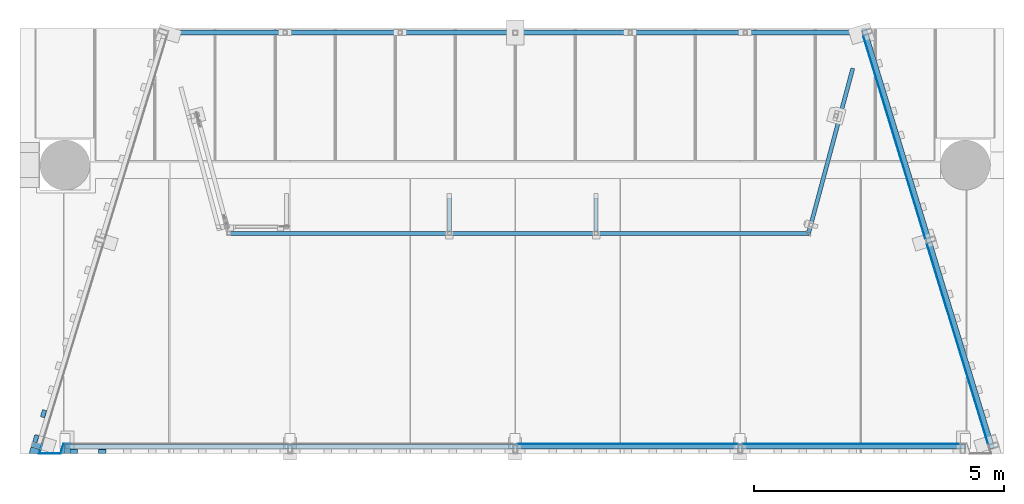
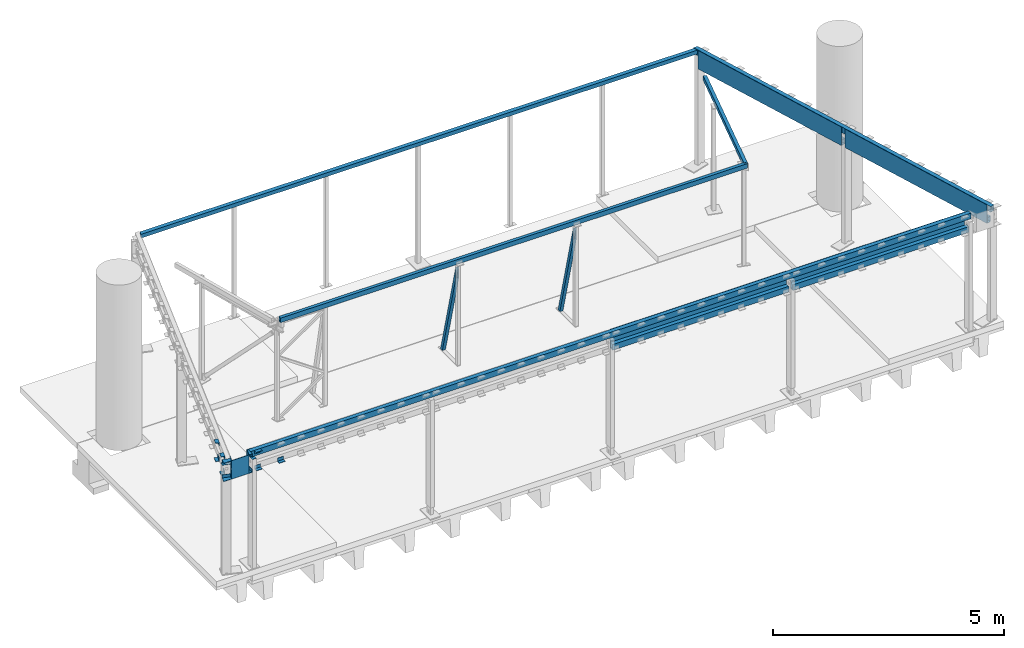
# One storey, part 11 of 19: 27 beams, 2 members.
"""IFC2X3 building model written with IfcOpenShell, lengths in millimetres."""

from ifc_helpers import new_model, entity, si_unit, converted_unit, derived_unit, direction, frame, origin_with_axes, place, context, subcontext, project, spatial, faceted_brep, material, type_object, element, save


model = new_model("IFC2X3")

# Units and contexts
model_context = context("Model", 3, precision=0.01, world=frame((0.0, 4.29681676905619e-09, 0.0)), true_north=direction((4.01073788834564e-13, 1.0)))
plan_context = context("Plan", 3, precision=0.01, world=frame((0.0, 4.29681676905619e-09, 0.0)), true_north=direction((4.01073788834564e-13, 1.0)))
body_context = subcontext(model_context, "Body", "Model", "MODEL_VIEW")
ifc_project = project(units=[converted_unit("PLANEANGLEUNIT", "DEGREE", entity("IfcPositiveLengthMeasure", 0.0174532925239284), si_unit("PLANEANGLEUNIT", "RADIAN"), dimensions=[0, 0, 0, 0, 0, 0, 0]), si_unit("AREAUNIT", "SQUARE_METRE"), si_unit("LENGTHUNIT", "METRE", prefix="MILLI"), si_unit("MASSUNIT", "GRAM", prefix="KILO"), si_unit("POWERUNIT", "WATT"), si_unit("PRESSUREUNIT", "PASCAL", prefix="KILO"), si_unit("FORCEUNIT", "NEWTON", prefix="KILO"), si_unit("ELECTRICVOLTAGEUNIT", "VOLT"), si_unit("ELECTRICCURRENTUNIT", "AMPERE"), si_unit("THERMODYNAMICTEMPERATUREUNIT", "DEGREE_CELSIUS"), si_unit("TIMEUNIT", "SECOND"), si_unit("VOLUMEUNIT", "CUBIC_METRE"), derived_unit("LINEARVELOCITYUNIT", [(si_unit("LENGTHUNIT", "METRE"), 1), (si_unit("TIMEUNIT", "SECOND"), -1)]), derived_unit("VOLUMETRICFLOWRATEUNIT", [(si_unit("VOLUMEUNIT", "CUBIC_METRE"), 1), (si_unit("TIMEUNIT", "SECOND"), -1)]), derived_unit("THERMALTRANSMITTANCEUNIT", [(si_unit("POWERUNIT", "WATT"), 1), (si_unit("THERMODYNAMICTEMPERATUREUNIT", "KELVIN"), -1), (si_unit("AREAUNIT", "SQUARE_METRE"), -1)]), derived_unit("SOUNDPRESSUREUNIT", [(si_unit("PRESSUREUNIT", "PASCAL"), 1)])], contexts=[model_context, plan_context])

# Site, building, storey
site_placement = place(None, frame((0.0, -4.29681676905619e-09, 0.0), z_axis=(0.0, 0.0, 1.0), x_axis=(1.0, 0.0, 0.0)))
site = spatial("IfcSite", under=ifc_project, at=site_placement, Name="Gardermoen", CompositionType="ELEMENT")
building_placement = place(site_placement, frame((0.0, 4.29681676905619e-09, 0.0), z_axis=(0.0, 0.0, 1.0), x_axis=(1.0, 0.0, 0.0)))
building = spatial("IfcBuilding", under=site, at=building_placement, Name="TI", CompositionType="ELEMENT")
storey_placement = place(building_placement, origin_with_axes())
storey = spatial("IfcBuildingStorey", under=building, at=storey_placement, Name="F", CompositionType="ELEMENT", Elevation=0.0)

# Beams
ifc_material = material(Name="STEEL/S355")
beam_type_1 = type_object("IfcBeamType", Name="PL8*100", PredefinedType="NOTDEFINED")
beam_1_placement = place(storey_placement, frame((583000.000043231, 569930.0, 213741.000686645), z_axis=(1.0, 0.0, 0.0), x_axis=(0.0, -1.0, 0.0)))
element("IfcBeam", 1, at=beam_1_placement, inside=storey, type_object=beam_type_1, material=ifc_material, Name="STÅLBJELKE", ObjectType="PL8*100", context=body_context, shape_type="Brep", body=[
    faceted_brep([(-5.82076609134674e-11, -3.99999999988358, 0.0), (3.95812094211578e-09, -3.99999999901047, 100.000000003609), (4.30736690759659e-09, 4.00000000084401, 100.000000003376), (-5.82076609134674e-11, 4.00000000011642, -5.82076609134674e-11), (199.999999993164, -4.0, 99.9999999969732), (199.999999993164, 4.0, 99.9999999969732), (200.0, -4.0, -1.97906047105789e-09), (200.0, 4.00000000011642, -1.62981450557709e-09)], [[[0, 1, 2, 3]], [[1, 4, 5, 2]], [[4, 6, 7, 5]], [[6, 0, 3, 7]], [[5, 7, 3, 2]], [[6, 4, 1, 0]]]),
])
beam_2_placement = place(storey_placement, frame((582545.424792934, 569908.377048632, 213741.000686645), z_axis=(-0.956304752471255, 0.292371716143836, 0.0), x_axis=(-0.292371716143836, -0.956304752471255, 0.0)))
element("IfcBeam", 2, at=beam_2_placement, inside=storey, type_object=beam_type_1, material=ifc_material, Name="STÅLBJELKE", ObjectType="PL8*100", context=body_context, shape_type="Brep", body=[
    faceted_brep([(-5.82076609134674e-11, -3.99999999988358, 0.0), (3.84170562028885e-09, -4.0, 199.999999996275), (3.84170562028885e-09, 4.0, 199.999999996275), (-5.82076609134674e-11, 4.00000000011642, -5.82076609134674e-11), (100.000000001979, -4.0, 199.999999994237), (100.000000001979, 4.0, 199.999999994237), (100.0, -4.0, 0.0), (100.0, 4.0, 0.0)], [[[0, 1, 2, 3]], [[1, 4, 5, 2]], [[4, 6, 7, 5]], [[6, 0, 3, 7]], [[5, 7, 3, 2]], [[6, 4, 1, 0]]]),
])
beam_type_2 = type_object("IfcBeamType", Name="RHS150*100*8", PredefinedType="NOTDEFINED")
for number, where, z_axis, x_axis in (
    (3, (596449.99998736, 569869.999958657, 213479.999618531), (0.0, 0.0, 1.0), (-0.999999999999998, 5.80000057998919e-08, 0.0)),
    (4, (600950.000018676, 569870.0, 213480.000686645), (0.0, 0.0, 1.0), (-0.999999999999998, 5.80000057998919e-08, 0.0)),
):
    element("IfcBeam", number, at=place(storey_placement, frame(where, z_axis=z_axis, x_axis=x_axis)), inside=storey, type_object=beam_type_2, material=ifc_material, Name="STÅLBJELKE", ObjectType="RHS150*100*8", context=body_context, shape_type="Brep", body=[
        faceted_brep([(-1.86264514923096e-09, 42.0000000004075, -67.0), (1.62981450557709e-09, -42.000000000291, -67.0), (4399.99994412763, -41.9999998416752, -67.0000000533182), (4399.9999441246, 42.0000001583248, -67.0000000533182), (1.62981450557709e-09, -42.000000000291, 67.0), (4399.9999441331, -41.9999998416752, 66.9999999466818), (-1.86264514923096e-09, 42.0000000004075, 67.0), (4399.99994413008, 42.0000001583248, 66.9999999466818), (0.0, 50.0, -75.0), (0.0, 50.0, 75.0), (4399.99994413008, 50.0000001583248, 74.9999999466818), (4399.99994412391, 50.0000001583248, -75.0000000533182), (0.0, -50.0, 75.0), (4399.99994413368, -49.9999998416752, 74.9999999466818), (0.0, -50.0, -75.0), (4399.99994412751, -49.9999998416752, -75.0000000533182)], [[[0, 1, 2, 3]], [[1, 4, 5, 2]], [[4, 6, 7, 5]], [[6, 0, 3, 7]], [[8, 9, 10, 11]], [[9, 12, 13, 10]], [[12, 14, 15, 13]], [[14, 8, 11, 15]], [[13, 15, 11, 10], [5, 7, 3, 2]], [[14, 12, 9, 8], [6, 4, 1, 0]]]),
    ])
beam_3_placement = place(storey_placement, frame((601000.000004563, 569870.0, 213820.000686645), z_axis=(0.0, 0.0, 1.0), x_axis=(-0.999999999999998, 5.80000057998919e-08, 0.0)))
element("IfcBeam", 5, at=beam_3_placement, inside=storey, type_object=beam_type_2, material=ifc_material, Name="STÅLBJELKE", ObjectType="RHS150*100*8", context=body_context, shape_type="Brep", body=[
    faceted_brep([(-1.86264514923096e-09, 42.0000000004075, -67.0), (1.62981450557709e-09, -42.000000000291, -67.0), (18000.0000126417, -42.0000003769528, -66.9999998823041), (18000.0000126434, 41.9999996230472, -66.9999998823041), (1.62981450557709e-09, -42.000000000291, 67.0), (18000.0000126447, -42.0000003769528, 67.0000001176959), (-1.86264514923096e-09, 42.0000000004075, 67.0), (18000.0000126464, 41.9999996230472, 67.0000001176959), (0.0, 50.0, -75.0), (0.0, 50.0, 75.0), (18000.0000126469, 49.9999996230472, 75.0000001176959), (18000.0000126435, 49.9999996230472, -74.9999998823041), (0.0, -50.0, 75.0), (18000.0000126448, -50.0000003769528, 75.0000001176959), (0.0, -50.0, -75.0), (18000.0000126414, -50.0000003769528, -74.9999998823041)], [[[0, 1, 2, 3]], [[1, 4, 5, 2]], [[4, 6, 7, 5]], [[6, 0, 3, 7]], [[8, 9, 10, 11]], [[9, 12, 13, 10]], [[12, 14, 15, 13]], [[14, 8, 11, 15]], [[13, 15, 11, 10], [5, 7, 3, 2]], [[14, 12, 9, 8], [6, 4, 1, 0]]]),
])
beam_4_placement = place(storey_placement, frame((600282.527435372, 573947.177100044, 213480.000686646), z_axis=(2.92383394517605e-10, -9.56342958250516e-10, 1.0), x_axis=(0.292371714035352, -0.956304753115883, -1.00003995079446e-09)))
element("IfcBeam", 6, at=beam_4_placement, inside=storey, type_object=beam_type_2, material=ifc_material, Name="STÅLBJELKE", ObjectType="RHS150*100*8", context=body_context, shape_type="Brep", body=[
    faceted_brep([(-1.86264514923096e-09, 42.0000000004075, -67.0), (1.62981450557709e-09, -42.000000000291, -67.0), (4204.99962718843, -42.0000000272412, -67.0), (4204.99962718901, 41.9999999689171, -67.0), (1.62981450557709e-09, -42.000000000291, 67.0), (4204.99962718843, -42.0000000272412, 67.0), (-1.86264514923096e-09, 42.0000000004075, 67.0), (4204.99962718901, 41.9999999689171, 67.0), (0.0, 50.0, -75.0), (0.0, 50.0, 75.0), (4204.99962718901, 49.9999999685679, 75.0), (4204.99962718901, 49.9999999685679, -75.0), (0.0, -50.0, 75.0), (4204.99962718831, -50.0000000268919, 75.0), (0.0, -50.0, -75.0), (4204.99962718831, -50.0000000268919, -75.0)], [[[0, 1, 2, 3]], [[1, 4, 5, 2]], [[4, 6, 7, 5]], [[6, 0, 3, 7]], [[8, 9, 10, 11]], [[9, 12, 13, 10]], [[12, 14, 15, 13]], [[14, 8, 11, 15]], [[13, 15, 11, 10], [5, 7, 3, 2]], [[14, 12, 9, 8], [6, 4, 1, 0]]]),
])
beam_5_placement = place(storey_placement, frame((599012.172367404, 578102.321296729, 213480.000686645), z_axis=(2.92383394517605e-10, -9.56342958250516e-10, 1.0), x_axis=(0.292371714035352, -0.956304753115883, -1.00003995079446e-09)))
element("IfcBeam", 7, at=beam_5_placement, inside=storey, type_object=beam_type_2, material=ifc_material, Name="STÅLBJELKE", ObjectType="RHS150*100*8", context=body_context, shape_type="Brep", body=[
    faceted_brep([(-1.86264514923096e-09, 42.0000000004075, -67.0), (1.62981450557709e-09, -42.000000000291, -67.0), (4244.99999992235, -41.999999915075, -67.0), (4244.99999992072, 42.0000000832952, -67.0), (1.62981450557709e-09, -42.000000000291, 67.0), (4244.99999992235, -41.999999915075, 67.0), (-1.86264514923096e-09, 42.0000000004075, 67.0), (4244.99999992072, 42.0000000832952, 67.0), (0.0, 50.0, -75.0), (0.0, 50.0, 75.0), (4244.9999999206, 50.0000000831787, 75.0), (4244.9999999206, 50.0000000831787, -75.0), (0.0, -50.0, 75.0), (4244.99999992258, -49.9999999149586, 75.0), (0.0, -50.0, -75.0), (4244.99999992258, -49.9999999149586, -75.0)], [[[0, 1, 2, 3]], [[1, 4, 5, 2]], [[4, 6, 7, 5]], [[6, 0, 3, 7]], [[8, 9, 10, 11]], [[9, 12, 13, 10]], [[12, 14, 15, 13]], [[14, 8, 11, 15]], [[13, 15, 11, 10], [5, 7, 3, 2]], [[14, 12, 9, 8], [6, 4, 1, 0]]]),
])
beam_6_placement = place(storey_placement, frame((596263.935293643, 587091.414294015, 213820.000686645), z_axis=(2.92383394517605e-10, -9.56342958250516e-10, 1.0), x_axis=(0.292371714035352, -0.956304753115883, -1.00003995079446e-09)))
element("IfcBeam", 8, at=beam_6_placement, inside=storey, type_object=beam_type_2, Name="STÅLBJELKE", ObjectType="RHS150*100*8", context=body_context, shape_type="Brep", body=[
    faceted_brep([(9256.08144221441, -41.9999997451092, -67.0), (9281.76282035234, 42.0000002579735, -67.0), (18049.819155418, 42.0000005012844, -67.0), (18049.8191554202, -41.9999995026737, -67.0), (9256.08144208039, -41.9999997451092, 67.0), (18049.8191554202, -41.9999995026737, 67.0), (9281.76282021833, 42.0000002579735, 67.0), (18049.819155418, 42.0000005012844, 67.0), (9284.2086657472, 50.0000002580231, 75.0), (9284.20866589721, 50.0000002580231, -75.0), (18049.8191554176, 50.0000005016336, -75.0), (18049.8191554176, 50.0000005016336, 75.0), (9253.63559653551, -49.9999997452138, 75.0), (18049.8191554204, -49.999999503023, 75.0), (9253.63559668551, -49.9999997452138, -75.0), (18049.8191554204, -49.999999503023, -75.0)], [[[0, 1, 2, 3]], [[4, 0, 3, 5]], [[6, 4, 5, 7]], [[1, 6, 7, 2]], [[8, 9, 10, 11]], [[12, 8, 11, 13]], [[14, 12, 13, 15]], [[9, 14, 15, 10]], [[11, 10, 15, 13], [3, 2, 7, 5]], [[12, 14, 9, 8], [4, 6, 1, 0]]], orient=[[False], [False], [False], [False], [False], [False], [False], [False], [False, False], [False, False]]),
])
beam_type_3 = type_object("IfcBeamType", Name="PL10*490", PredefinedType="NOTDEFINED")
beam_7_placement = place(storey_placement, frame((583099.99925983, 569924.999998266, 213650.000687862), z_axis=(2.93199766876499e-06, -1.78000527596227e-07, 0.999999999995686), x_axis=(-0.999999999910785, 1.3031999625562e-05, 2.93199998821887e-06)))
element("IfcBeam", 9, at=beam_7_placement, inside=storey, type_object=beam_type_3, material=ifc_material, Name="STÅLBJELKE", ObjectType="PL10*490", context=body_context, shape_type="Brep", body=[
    faceted_brep([(99.9995517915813, -4.99999995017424, 94.9996998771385), (99.9995517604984, 5.00000005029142, 94.9996998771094), (99.997878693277, 5.00000003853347, -245.000000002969), (99.9978786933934, -4.9999999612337, -245.000000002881), (4.28990460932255e-08, -5.00000000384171, 94.9999999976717), (4.2840838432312e-08, 4.99999999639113, 94.9999999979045), (187.775783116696, 185.007680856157, 244.999999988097), (187.775783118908, 185.007680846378, -245.000000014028), (606.06051197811, 185.016519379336, -245.000000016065), (606.060511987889, 185.016519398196, 244.999999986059), (619.574558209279, 195.016804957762, 244.999999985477), (180.375923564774, 195.007524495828, 244.999999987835), (122.290190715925, 5.00000004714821, 244.999999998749), (0.0, 5.0, 245.0), (0.0, -5.0, 245.0), (129.69000246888, -4.99999994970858, 244.999999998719), (554.581139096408, 16.6237644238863, 244.999999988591), (564.144241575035, 13.7002270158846, 244.999999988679), (554.581139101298, 16.6237644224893, 94.9983727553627), (564.144241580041, 13.7002270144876, 94.9983446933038), (583.810452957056, 112.261033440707, 94.9982870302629), (593.380826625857, 109.335212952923, 94.9982589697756), (583.810429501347, 112.261033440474, 86.9982870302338), (593.380824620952, 109.335206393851, 86.9982589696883), (583.817655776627, 112.258526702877, -245.000000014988), (593.3807414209, 109.334934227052, -245.000000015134), (602.178997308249, 172.321897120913, 11.7481199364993), (598.707531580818, 160.967325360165, 19.3351377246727), (594.612610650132, 147.573694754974, 21.9993204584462), (590.517649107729, 134.180064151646, 19.3350704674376), (587.046067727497, 122.825492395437, 11.7479956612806), (584.726383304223, 115.238610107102, 0.39315940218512), (583.911746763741, 112.574451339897, -13.0007674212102), (584.72617913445, 115.238610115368, -26.3946808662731), (587.045690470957, 122.825492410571, -37.7494790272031), (590.517156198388, 134.180064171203, -45.3364968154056), (594.612077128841, 147.573694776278, -48.000679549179), (598.70703867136, 160.967325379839, -45.3364295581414), (602.178620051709, 172.321897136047, -37.7493547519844), (604.498304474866, 179.90877942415, -26.394518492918), (605.312941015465, 182.572938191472, -13.0005916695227), (604.49850864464, 179.908779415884, 0.393321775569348), (614.955655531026, 179.908039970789, 0.393407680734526), (615.770115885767, 182.572198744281, -13.0005057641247), (612.636268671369, 172.321157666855, 11.7482058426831), (609.165060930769, 160.966585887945, 19.3352236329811), (605.070492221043, 147.572955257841, 21.9994063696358), (600.97592351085, 134.17932462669, 19.3351563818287), (597.504715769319, 122.824752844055, 11.7480815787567), (595.185328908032, 115.237870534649, 0.39324532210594), (594.370868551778, 112.573711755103, -13.0006814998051), (595.185328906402, 115.237870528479, -26.3945949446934), (597.504715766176, 122.824752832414, -37.7493931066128), (600.975923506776, 134.179324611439, -45.3364108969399), (605.070492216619, 147.572955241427, -48.0005936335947), (609.165060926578, 160.966585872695, -45.3363436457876), (612.63626866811, 172.321157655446, -37.7492688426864), (614.95565552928, 179.908039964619, -26.3944325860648), (619.5745581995, 195.016804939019, -245.000000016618), (180.375923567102, 195.007524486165, -245.00000001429), (122.29019070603, 5.00000004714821, -245.000000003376), (157.370891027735, 119.754462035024, 11.7489074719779), (153.899861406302, 108.400180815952, 19.3358866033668), (149.805502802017, 95.0068929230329, 22.0000237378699), (145.711144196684, 81.6136050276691, 19.3357281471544), (142.240114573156, 70.2593238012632, 11.748614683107), (139.920846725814, 62.6726356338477, 0.393752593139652), (139.106428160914, 60.0085450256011, -13.0001833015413), (139.920846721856, 62.6726356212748, -26.3940876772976), (142.240114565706, 70.2593237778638, -37.7488600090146), (145.711144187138, 81.6136049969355, -45.3358391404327), (149.80550279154, 95.0068928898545, -47.9999762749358), (153.89986139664, 108.400180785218, -45.3356806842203), (157.3708910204, 119.754462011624, -37.7485672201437), (159.690158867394, 127.341150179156, -26.3937051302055), (160.504577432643, 130.005240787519, -12.9997692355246), (159.690158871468, 127.341150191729, 0.394135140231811), (170.146499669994, 127.339535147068, 0.39433759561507), (170.960918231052, 130.003625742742, -12.9995667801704), (167.827231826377, 119.752846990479, 11.749109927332), (164.356202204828, 108.398565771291, 19.3360890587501), (160.261843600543, 95.0052778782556, 22.0002261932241), (156.167484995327, 81.6119899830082, 19.3359306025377), (152.69645537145, 70.2577087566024, 11.7488171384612), (150.37718752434, 62.6710205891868, 0.393955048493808), (149.56276895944, 60.0069299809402, -12.999980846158), (150.377187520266, 62.671020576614, -26.3938852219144), (152.696455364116, 70.2577087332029, -37.7486575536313), (156.167484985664, 81.6119899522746, -45.3356366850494), (160.261843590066, 95.0052778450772, -47.9997738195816), (164.356202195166, 108.398565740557, -45.335478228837), (167.827231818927, 119.752846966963, -37.7483647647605), (170.146499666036, 127.339535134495, -26.3935026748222), (129.690002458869, -4.99999994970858, -245.000000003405)], [[[0, 1, 2, 3]], [[4, 5, 1, 0]], [[6, 7, 8, 9]], [[10, 11, 12, 13, 14, 15, 6, 9, 16, 17]], [[17, 16, 18, 19]], [[19, 18, 20, 21]], [[21, 20, 22, 23]], [[23, 22, 24, 25]], [[20, 18, 16, 9, 8, 24, 22], [26, 27, 28, 29, 30, 31, 32, 33, 34, 35, 36, 37, 38, 39, 40, 41]], [[42, 41, 40, 43]], [[44, 26, 41, 42]], [[45, 27, 26, 44]], [[46, 28, 27, 45]], [[47, 29, 28, 46]], [[48, 30, 29, 47]], [[49, 31, 30, 48]], [[50, 32, 31, 49]], [[51, 33, 32, 50]], [[52, 34, 33, 51]], [[53, 35, 34, 52]], [[54, 36, 35, 53]], [[55, 37, 36, 54]], [[56, 38, 37, 55]], [[57, 39, 38, 56]], [[43, 40, 39, 57]], [[58, 10, 17, 19, 21, 23, 25], [56, 55, 54, 53, 52, 51, 50, 49, 48, 47, 46, 45, 44, 42, 43, 57]], [[59, 11, 10, 58]], [[60, 12, 11, 59], [61, 62, 63, 64, 65, 66, 67, 68, 69, 70, 71, 72, 73, 74, 75, 76]], [[77, 76, 75, 78]], [[79, 61, 76, 77]], [[80, 62, 61, 79]], [[81, 63, 62, 80]], [[82, 64, 63, 81]], [[83, 65, 64, 82]], [[84, 66, 65, 83]], [[85, 67, 66, 84]], [[86, 68, 67, 85]], [[87, 69, 68, 86]], [[88, 70, 69, 87]], [[89, 71, 70, 88]], [[90, 72, 71, 89]], [[91, 73, 72, 90]], [[92, 74, 73, 91]], [[78, 75, 74, 92]], [[15, 93, 7, 6], [91, 90, 89, 88, 87, 86, 85, 84, 83, 82, 81, 80, 79, 77, 78, 92]], [[60, 59, 58, 25, 24, 8, 7, 93, 3, 2]], [[13, 12, 60, 2, 1, 5]], [[14, 13, 5, 4]], [[93, 15, 14, 4, 0, 3]]]),
])
beam_8_placement = place(storey_placement, frame((596449.99998736, 569924.999958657, 213649.999618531), z_axis=(0.0, 0.0, 1.0), x_axis=(-0.999999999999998, 5.80000057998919e-08, 0.0)))
element("IfcBeam", 10, at=beam_8_placement, inside=storey, type_object=beam_type_3, material=ifc_material, Name="STÅLBJELKE", ObjectType="PL10*490", context=body_context, shape_type="Brep", body=[
    faceted_brep([(0.0, 5.0, -245.0), (0.0, 5.0, 245.0), (4399.99999999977, 5.0, 245.0), (4399.99999999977, 5.0, -245.0), (0.0, -5.0, 245.0), (4399.99999999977, -5.0, 245.0), (0.0, -5.0, -245.0), (4399.99999999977, -5.0, -245.0)], [[[0, 1, 2, 3]], [[1, 4, 5, 2]], [[4, 6, 7, 5]], [[6, 0, 3, 7]], [[5, 7, 3, 2]], [[6, 4, 1, 0]]]),
])
beam_9_placement = place(storey_placement, frame((600900.000060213, 569925.0, 213650.000686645), z_axis=(0.0, 0.0, 1.0), x_axis=(-0.999999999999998, 5.80000057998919e-08, 0.0)))
element("IfcBeam", 11, at=beam_9_placement, inside=storey, type_object=beam_type_3, material=ifc_material, Name="STÅLBJELKE", ObjectType="PL10*490", context=body_context, shape_type="Brep", body=[
    faceted_brep([(0.0, 5.0, -245.0), (0.0, 5.0, 245.0), (4349.99994413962, 4.99999994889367, 244.999999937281), (4349.99994413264, 4.99999994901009, -245.000000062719), (0.0, -5.0, 245.0), (4349.9999441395, -5.00000005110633, 244.999999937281), (0.0, -5.0, -245.0), (4349.99994413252, -5.00000005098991, -245.000000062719)], [[[0, 1, 2, 3]], [[1, 4, 5, 2]], [[4, 6, 7, 5]], [[6, 0, 3, 7]], [[5, 7, 3, 2]], [[6, 4, 1, 0]]]),
])
beam_10_placement = place(storey_placement, frame((600200.69654097, 574026.730881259, 213650.000686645), z_axis=(2.92383394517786e-10, -9.56342958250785e-10, 1.0), x_axis=(-0.292371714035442, 0.956304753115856, 1.00003995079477e-09)))
element("IfcBeam", 12, at=beam_10_placement, inside=storey, type_object=beam_type_3, material=ifc_material, Name="STÅLBJELKE", ObjectType="PL10*490", context=body_context, shape_type="Brep", body=[
    faceted_brep([(0.0, 5.0, -245.0), (0.0, 5.0, 245.0), (4244.99999992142, 5.00000008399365, 245.0), (4244.99999992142, 5.00000008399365, -245.0), (0.0, -5.0, 245.0), (4244.99999992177, -4.99999991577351, 245.0), (0.0, -5.0, -245.0), (4244.99999992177, -4.99999991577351, -245.0)], [[[0, 1, 2, 3]], [[1, 4, 5, 2]], [[4, 6, 7, 5]], [[6, 0, 3, 7]], [[5, 7, 3, 2]], [[6, 4, 1, 0]]]),
])
beam_11_placement = place(storey_placement, frame((601459.356730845, 569909.838907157, 213650.000686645), z_axis=(2.92383394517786e-10, -9.56342958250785e-10, 1.0), x_axis=(-0.292371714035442, 0.956304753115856, 1.00003995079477e-09)))
element("IfcBeam", 13, at=beam_11_placement, inside=storey, type_object=beam_type_3, material=ifc_material, Name="STÅLBJELKE", ObjectType="PL10*490", context=body_context, shape_type="Brep", body=[
    faceted_brep([(0.0, 5.0, -245.0), (0.0, 5.0, 245.0), (4204.99999992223, 5.00000008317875, 245.0), (4204.99999992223, 5.00000008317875, -245.0), (0.0, -5.0, 245.0), (4204.99999992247, -4.99999991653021, 245.0), (0.0, -5.0, -245.0), (4204.99999992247, -4.99999991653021, -245.0)], [[[0, 1, 2, 3]], [[1, 4, 5, 2]], [[4, 6, 7, 5]], [[6, 0, 3, 7]], [[5, 7, 3, 2]], [[6, 4, 1, 0]]]),
])
beam_type_4 = type_object("IfcBeamType", Name="L90*9", PredefinedType="NOTDEFINED")
beam_12_placement = place(storey_placement, frame((582954.99723239, 569729.995958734, 213450.001068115), z_axis=(-0.999999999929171, -1.19019998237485e-05, 0.0), x_axis=(-1.19019998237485e-05, 0.999999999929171, 0.0)))
element("IfcBeam", 14, at=beam_12_placement, inside=storey, type_object=beam_type_4, material=ifc_material, Name="STÅLBJELKE", ObjectType="L90*9", context=body_context, shape_type="Brep", body=[
    faceted_brep([(0.0, -45.0, -45.0), (0.0, 45.0, -45.0), (190.006239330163, 45.0, -44.999999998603), (190.006239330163, -45.0, -44.999999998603), (-4.65661287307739e-10, -45.0, -35.9999999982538), (190.006239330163, -45.0, -35.9999999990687), (-4.65661287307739e-10, 36.0, -35.9999999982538), (190.006239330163, 36.0, -35.9999999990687), (190.006239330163, 36.0, -22.7140400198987), (1.16415321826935e-10, 36.0, 35.3791320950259), (1.16415321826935e-10, 45.0, 35.3791320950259), (190.006239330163, 45.0, -22.7140400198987)], [[[0, 1, 2, 3]], [[4, 0, 3, 5]], [[6, 4, 5, 7]], [[6, 7, 8, 9]], [[1, 0, 4, 6, 9, 10]], [[2, 1, 10, 11]], [[7, 5, 3, 2, 11, 8]], [[10, 9, 8, 11]]]),
])
beam_13_placement = place(storey_placement, frame((582954.99723239, 569729.995958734, 213850.001068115), z_axis=(0.0, 0.0, -1.0), x_axis=(-1.08959999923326e-05, 0.999999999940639, 0.0)))
element("IfcBeam", 15, at=beam_13_placement, inside=storey, type_object=beam_type_4, material=ifc_material, Name="STÅLBJELKE", ObjectType="L90*9", context=body_context, shape_type="Brep", body=[
    faceted_brep([(0.0, 45.0, -45.0), (0.0, 45.0, 45.0), (190.006239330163, 44.999999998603, 45.0), (190.006239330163, 45.0, -44.999999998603), (8.14907252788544e-10, 36.0, 44.9999999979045), (190.006239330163, 35.9999999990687, 45.0), (-4.65661287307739e-10, 36.0, -35.9999999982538), (190.006239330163, 36.0, -35.9999999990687), (190.00623933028, 22.7140400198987, -36.0), (190.00623933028, 22.7140400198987, -45.0), (1.16415321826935e-10, -35.3791320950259, -45.0), (1.16415321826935e-10, -35.3791320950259, -36.0)], [[[0, 1, 2, 3]], [[1, 4, 5, 2]], [[4, 6, 7, 5]], [[3, 2, 5, 7, 8, 9]], [[0, 3, 9, 10]], [[6, 4, 1, 0, 10, 11]], [[7, 6, 11, 8]], [[10, 9, 8, 11]]]),
])
for number, where, z_axis, x_axis in (
    (16, (582551.449533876, 570458.117220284, 213450.001068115), (-0.956310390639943, 0.292353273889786, -5.79999804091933e-08), (0.292353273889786, 0.956310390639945, -3.30052303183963e-14)),
    (17, (582551.449533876, 570458.117220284, 213850.001068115), (0.0, 0.0, -1.0), (0.292353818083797, 0.956310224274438, 0.0)),
    (18, (583824.999978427, 569774.999964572, 213450.001068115), (-5.80000057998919e-08, -0.999999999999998, 0.0), (-0.999999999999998, 5.80000057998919e-08, 0.0)),
    (19, (583249.999978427, 569774.999964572, 213450.001068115), (-5.80000057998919e-08, -0.999999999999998, 0.0), (-0.999999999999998, 5.80000057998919e-08, 0.0)),
    (20, (583249.999978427, 569774.999964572, 213850.001068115), (0.0, 0.0, -1.0), (-0.999999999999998, 5.80000057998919e-08, 0.0)),
    (21, (582397.199533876, 569953.687220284, 213450.001068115), (-0.956310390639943, 0.292353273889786, -5.79999804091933e-08), (0.292353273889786, 0.956310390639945, -3.30052303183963e-14)),
    (22, (582397.199533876, 569953.687220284, 213850.001068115), (0.0, 0.0, -1.0), (0.292353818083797, 0.956310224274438, 0.0)),
):
    element("IfcBeam", number, at=place(storey_placement, frame(where, z_axis=z_axis, x_axis=x_axis)), inside=storey, type_object=beam_type_4, material=ifc_material, Name="STÅLBJELKE", ObjectType="L90*9", context=body_context, shape_type="Brep", body=[
        faceted_brep([(0.0, 45.0, -45.0), (0.0, 45.0, 45.0), (149.994660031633, 45.0, 44.9999999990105), (149.994660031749, 45.0, -44.9999999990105), (8.14907252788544e-10, 36.0, 44.9999999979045), (149.994660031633, 36.0, 44.9999999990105), (-4.65661287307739e-10, 36.0, -35.9999999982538), (149.994660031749, 36.0, -35.9999999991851), (-4.65661287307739e-10, -45.0, -35.9999999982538), (149.994660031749, -45.0, -35.9999999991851), (0.0, -45.0, -45.0), (149.994660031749, -45.0, -44.9999999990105)], [[[0, 1, 2, 3]], [[1, 4, 5, 2]], [[4, 6, 7, 5]], [[6, 8, 9, 7]], [[8, 10, 11, 9]], [[10, 0, 3, 11]], [[5, 7, 9, 11, 3, 2]], [[10, 8, 6, 4, 1, 0]]]),
    ])
beam_type_5 = type_object("IfcBeamType", Name="RHS120*80*6.3", PredefinedType="NOTDEFINED")
beam_14_placement = place(storey_placement, frame((598750.183822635, 577433.333163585, 213637.99973297), z_axis=(0.0, 0.0, 1.0), x_axis=(-0.25881903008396, -0.965925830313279, 0.0)))
element("IfcBeam", 23, at=beam_14_placement, inside=storey, type_object=beam_type_5, material=ifc_material, Name="STÅLBJELKE", ObjectType="RHS120*80*6.3", context=body_context, shape_type="Brep", body=[
    faceted_brep([(0.0, -40.0, -60.0), (0.0, 40.0, -60.0), (3430.869630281, 40.0000000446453, -59.9999999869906), (3369.57446856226, -39.9999999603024, -59.9999999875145), (-1.62981450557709e-09, -40.0, 60.0), (3369.57447255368, -39.9999999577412, 60.0000000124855), (0.0, 40.0, 60.0), (3430.86963427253, 40.0000000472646, 60.0000000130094), (-1.51339918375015e-09, 33.6999998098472, 53.6999998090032), (1.28056854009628e-09, -33.69999981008, 53.6999998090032), (1.28056854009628e-09, -33.69999981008, -53.6999998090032), (-1.51339918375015e-09, 33.6999998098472, -53.6999998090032), (3426.04263993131, 33.6999998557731, 53.6999998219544), (3374.40146647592, -33.6999997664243, 53.699999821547), (3374.40146290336, -33.6999997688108, -53.6999997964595), (3426.04263635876, 33.6999998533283, -53.6999997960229)], [[[0, 1, 2, 3]], [[4, 0, 3, 5]], [[6, 4, 5, 7]], [[1, 6, 7, 2]], [[0, 4, 6, 1], [8, 9, 10, 11]], [[9, 8, 12, 13]], [[10, 9, 13, 14]], [[11, 10, 14, 15]], [[8, 11, 15, 12]], [[3, 2, 7, 5], [14, 13, 12, 15]]]),
])
beam_15_placement = place(storey_placement, frame((586227.263115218, 574136.763174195, 213637.99961853), z_axis=(0.0, 0.0, 1.0), x_axis=(1.0, 0.0, 0.0)))
element("IfcBeam", 24, at=beam_15_placement, inside=storey, type_object=beam_type_5, material=ifc_material, Name="STÅLBJELKE", ObjectType="RHS120*80*6.3", context=body_context, shape_type="Brep", body=[
    faceted_brep([(0.0, -40.0, -60.0), (0.0, 40.0, -60.0), (11596.3032000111, 40.0000004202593, -60.0), (11657.7796873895, -39.9999995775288, -60.0), (-1.62981450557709e-09, -40.0, 60.0), (11657.7796873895, -39.9999995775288, 60.0), (0.0, 40.0, 60.0), (11596.3032000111, 40.0000004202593, 60.0), (-1.51339918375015e-09, 33.6999998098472, 53.6999998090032), (1.28056854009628e-09, -33.69999981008, 53.6999998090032), (1.28056854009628e-09, -33.69999981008, -53.6999998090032), (-1.51339918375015e-09, 33.6999998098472, -53.6999998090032), (11652.9384138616, -33.6999993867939, 53.6999998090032), (11652.9384138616, -33.6999993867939, -53.6999998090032), (11601.1444735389, 33.700000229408, -53.6999998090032), (11601.1444735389, 33.700000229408, 53.6999998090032)], [[[0, 1, 2, 3]], [[4, 0, 3, 5]], [[6, 4, 5, 7]], [[1, 6, 7, 2]], [[0, 4, 6, 1], [8, 9, 10, 11]], [[10, 9, 12, 13]], [[11, 10, 13, 14]], [[8, 11, 14, 15]], [[9, 8, 15, 12]], [[2, 7, 5, 3], [14, 13, 12, 15]]]),
])
beam_type_6 = type_object("IfcBeamType", Name="RHS100*8", PredefinedType="NOTDEFINED")
beam_16_placement = place(storey_placement, frame((598925.559959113, 578150.531879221, 213845.000686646), z_axis=(0.0, 0.0, 1.0), x_axis=(-0.999999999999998, 5.80000057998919e-08, 0.0)))
element("IfcBeam", 25, at=beam_16_placement, inside=storey, type_object=beam_type_6, material=ifc_material, Name="STÅLBJELKE", ObjectType="RHS100*8", context=body_context, shape_type="Brep", body=[
    faceted_brep([(-21.976329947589, 42.0, -42.0), (3.70508285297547, -42.0, -42.0), (13847.414862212, -42.0, -42.0), (13873.0962394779, 42.0, -42.0), (3.70508285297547, -42.0, 42.0), (13847.414862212, -42.0, 42.0), (-21.976329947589, 42.0, 42.0), (13873.0962394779, 42.0, 42.0), (-24.4221787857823, 50.0, -50.0), (-24.4221787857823, 50.0, 50.0), (13875.5420849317, 50.0, 50.0), (13875.5420849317, 50.0, -50.0), (6.15093169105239, -50.0, 50.0), (13844.9690167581, -50.0, 50.0), (6.15093169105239, -50.0, -50.0), (13844.9690167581, -50.0, -50.0)], [[[0, 1, 2, 3]], [[1, 4, 5, 2]], [[4, 6, 7, 5]], [[6, 0, 3, 7]], [[8, 9, 10, 11]], [[9, 12, 13, 10]], [[12, 14, 15, 13]], [[14, 8, 11, 15]], [[13, 15, 11, 10], [5, 7, 3, 2]], [[14, 12, 9, 8], [6, 4, 1, 0]]]),
])
beam_type_7 = type_object("IfcBeamType", Name="L150*90*9", PredefinedType="NOTDEFINED")
beam_17_placement = place(storey_placement, frame((582484.694713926, 569743.956340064, 213450.001068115), z_axis=(-0.292336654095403, -0.956315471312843, 0.0), x_axis=(-0.956315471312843, 0.292336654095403, 0.0)))
element("IfcBeam", 26, at=beam_17_placement, inside=storey, type_object=beam_type_7, material=ifc_material, Name="STÅLBJELKE", ObjectType="L150*90*9", context=body_context, shape_type="Brep", body=[
    faceted_brep([(2.44472175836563e-09, -45.0, -74.9999999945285), (2.44472175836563e-09, 45.0, -74.9999999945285), (189.995998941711, 45.0, -75.0000000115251), (189.995998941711, -45.0, -75.0000000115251), (2.15368345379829e-09, -45.0, -65.999999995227), (189.995998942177, -45.0, -66.0000000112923), (2.15368345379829e-09, 36.0, -65.999999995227), (189.995998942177, 36.0, -66.0000000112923), (189.995998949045, 36.0, 72.6714805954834), (6.98491930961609e-10, 36.0, 14.5914889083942), (6.98491930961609e-10, 45.0, 14.5914889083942), (189.995998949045, 45.0, 72.6714805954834)], [[[0, 1, 2, 3]], [[4, 0, 3, 5]], [[6, 4, 5, 7]], [[6, 7, 8, 9]], [[1, 0, 4, 6, 9, 10]], [[2, 1, 10, 11]], [[7, 5, 3, 2, 11, 8]], [[10, 9, 8, 11]]]),
])
beam_type_8 = type_object("IfcBeamType", Name="L90*150*9", PredefinedType="NOTDEFINED")
beam_18_placement = place(storey_placement, frame((582484.702207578, 569743.947106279, 213850.001068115), z_axis=(0.0, 0.0, -1.0), x_axis=(-0.95630530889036, 0.292369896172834, 0.0)))
element("IfcBeam", 27, at=beam_18_placement, inside=storey, type_object=beam_type_8, material=ifc_material, Name="STÅLBJELKE", ObjectType="L90*150*9", context=body_context, shape_type="Brep", body=[
    faceted_brep([(2.5029294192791e-09, 74.9999999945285, -45.0), (2.5029294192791e-09, 74.9999999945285, 45.0), (190.008485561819, 74.9999999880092, 45.0), (190.008485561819, 74.9999999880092, -45.0), (2.15368345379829e-09, 65.999999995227, 45.0), (190.008485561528, 65.9999999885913, 45.0), (2.15368345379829e-09, 65.999999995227, -36.0), (190.008485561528, 65.9999999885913, -36.0), (190.008485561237, -72.6730581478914, -36.0), (190.008485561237, -72.6730581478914, -45.0), (-4.65661287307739e-10, -14.5819890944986, -45.0), (-4.65661287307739e-10, -14.5819890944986, -36.0)], [[[0, 1, 2, 3]], [[1, 4, 5, 2]], [[4, 6, 7, 5]], [[3, 2, 5, 7, 8, 9]], [[0, 3, 9, 10]], [[6, 4, 1, 0, 10, 11]], [[7, 6, 11, 8]], [[10, 9, 8, 11]]]),
])

# Members
member_type = type_object("IfcMemberType", Name="RHS80*6.3", PredefinedType="NOTDEFINED")
for number, where, z_axis, x_axis in (
    (28, (593620.232139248, 574803.057374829, 210870.609208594), (4.30799997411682e-06, 0.9680537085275, 0.250742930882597), (-1.11600001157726e-06, -0.250742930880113, 0.968053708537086)),
    (29, (590685.232139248, 574803.057374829, 210870.609208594), (4.30799997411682e-06, 0.9680537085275, 0.250742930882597), (-1.11600001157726e-06, -0.250742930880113, 0.968053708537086)),
):
    element("IfcMember", number, at=place(storey_placement, frame(where, z_axis=z_axis, x_axis=x_axis)), inside=storey, type_object=member_type, material=ifc_material, Name="STÅLDIAGONAL", ObjectType="RHS80*6.3", context=body_context, shape_type="Brep", body=[
        faceted_brep([(2652.20098989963, -39.9999998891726, 39.9999999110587), (2652.20099017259, 40.0000001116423, 39.9999999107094), (14.8349973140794, 39.9999999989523, 40.0000000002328), (14.8349973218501, -40.0000000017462, 40.0000000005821), (2343.34164773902, -39.999999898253, -40.000000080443), (35.5564038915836, -39.9999999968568, -40.0000000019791), (2343.34164801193, 40.0000001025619, -40.0000000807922), (35.556403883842, 40.0000000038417, -40.0000000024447), (2627.8783159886, -33.6999996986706, 33.6999997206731), (2627.87831621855, 33.6999999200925, 33.6999997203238), (2367.66432192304, 33.6999999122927, -33.699999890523), (2367.66432169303, -33.699999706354, -33.6999998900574), (33.9245930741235, -33.6999998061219, -33.699999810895), (16.4668081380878, -33.6999998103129, 33.6999998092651), (16.4668081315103, 33.6999998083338, 33.6999998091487), (33.9245930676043, 33.6999998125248, -33.6999998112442)], [[[0, 1, 2, 3]], [[4, 0, 3, 5]], [[6, 4, 5, 7]], [[1, 6, 7, 2]], [[0, 4, 6, 1], [8, 9, 10, 11]], [[8, 11, 12, 13]], [[9, 8, 13, 14]], [[10, 9, 14, 15]], [[11, 10, 15, 12]], [[2, 7, 5, 3], [14, 13, 12, 15]]]),
    ])

save(model, "model.ifc")
